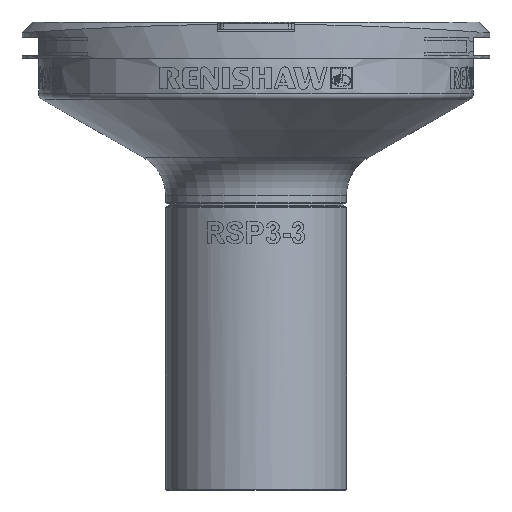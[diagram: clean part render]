
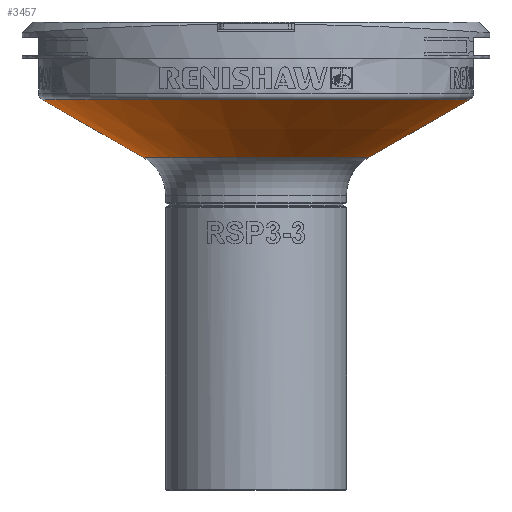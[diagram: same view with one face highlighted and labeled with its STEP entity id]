
A CAD part, front view. The second image highlights one B-rep face of the part: STEP entity #3457.
In plain terms, the highlighted conical face has half-angle 60.255 degrees and reference radius 30 mm.
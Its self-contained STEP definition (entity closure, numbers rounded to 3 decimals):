
#2116=FACE_BOUND('',#4093,.T.);
#2117=FACE_BOUND('',#4094,.T.);
#2174=CONICAL_SURFACE('',#10513,30.,60.255);
#3457=ADVANCED_FACE('',(#2116,#2117),#2174,.T.);
#4093=EDGE_LOOP('',(#6374));
#4094=EDGE_LOOP('',(#6375));
#6374=ORIENTED_EDGE('',*,*,#9325,.T.);
#6375=ORIENTED_EDGE('',*,*,#9326,.T.);
#8043=VERTEX_POINT('',#15521);
#8044=VERTEX_POINT('',#15524);
#9325=EDGE_CURVE('',#8043,#8043,#10040,.T.);
#9326=EDGE_CURVE('',#8044,#8044,#10041,.T.);
#10040=CIRCLE('',#10509,29.547);
#10041=CIRCLE('',#10511,15.523);
#10509=AXIS2_PLACEMENT_3D('',#15520,#11748,#11749);
#10511=AXIS2_PLACEMENT_3D('',#15523,#11752,#11753);
#10513=AXIS2_PLACEMENT_3D('',#15526,#11756,#11757);
#11748=DIRECTION('',(0.,0.,-1.));
#11749=DIRECTION('',(-1.,0.,0.));
#11752=DIRECTION('',(0.,0.,1.));
#11753=DIRECTION('',(1.,0.,0.));
#11756=DIRECTION('',(0.,0.,1.));
#11757=DIRECTION('',(0.,-1.,0.));
#15520=CARTESIAN_POINT('',(0.,0.,
-11.559));
#15521=CARTESIAN_POINT('',(-29.547,0.,-11.559));
#15523=CARTESIAN_POINT('',(0.,0.,
-19.572));
#15524=CARTESIAN_POINT('',(15.523,0.,-19.572));
#15526=CARTESIAN_POINT('',(0.,0.,
-11.3));
